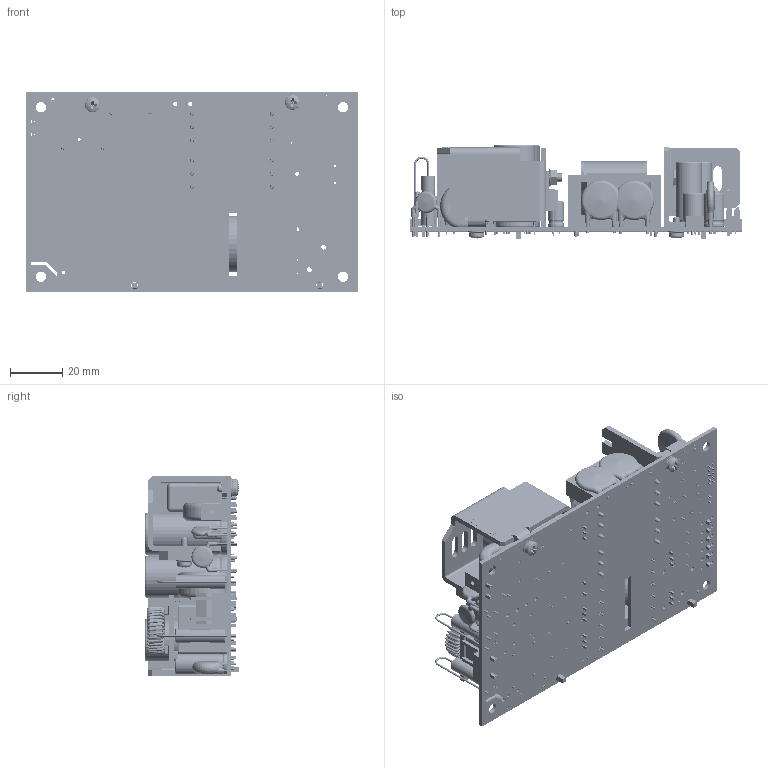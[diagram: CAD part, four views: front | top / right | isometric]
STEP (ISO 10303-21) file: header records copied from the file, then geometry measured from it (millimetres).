
FILE_DESCRIPTION (( 'STEP AP214' ), '1' );
FILE_NAME ('GCS350 24V-56V.STEP', '2018-11-13T18:51:45', ( '' ), ( '' ), 'SwSTEP 2.0', 'SolidWorks 2018', '' );
FILE_SCHEMA (( 'AUTOMOTIVE_DESIGN' ));
Length unit declared in the file: inch
Products named in the file (38): Capacitor Elec_10mm D_25mm; 10017249 (inductor L1); GCS350 24V-56V; TO220_3P_01; L1 winding; Capacitor Elec_08mm D_13mm H; 10017648 (Base Inductor 17x27mm); Capacitor Disc_0.500 D_0.400" C; Conn_MLX_KK156_Hdr_06P; Bridge Rectifier_GBU6K_Lead trimed; Screw_Sq Cone_no 4_01_.375"; CAP FILM_17x11x21MM_15LS; Capacitor Elec_16mm Dx31.5mm H_30mm; Pot_Top adj_Type1_01; Capacitor Film_12x5mm_10 LS; Capacitor Film_18x11mm_15 LS_19mm H; MOV-S10K140E2; CAP FILM_17x5x11MM_15LS; Capacitor Elec_08mm D_20mm H; FUSE-0; Capacitor Elec_06mm D_10mm H; Inductor Toroid_18.0mm OD_7mm Width; Screw_Flat Head Phillips (Metric)_(1314)_M3 x 8; Inductor Toroid_20.0mm OD_10mm Width; Capacitor Disc_0.300 D X .40 LS; Nut_Keps_4-40_Star_01; Faston .25 X .032; Screw_Sq Cone_no 4_01_.250"; Xfmr_GCS150; TO220_2P_01; L4; Conn_JST_S10B-PHDSS-B_Vertical; 1001720901; CON MLX  .156 3P; 1001720802; Choke Output Rod; 1001720602; Conn_MLX_KK100_Hdr_02P
Assembly tree (65 placements, depth 3):
  GCS350 24V-56V
    1001720602
    1001720802
    1001720901
    L4
    Xfmr_GCS150
    Faston .25 X .032
    Capacitor Disc_0.300 D X .40 LS  x3
    Inductor Toroid_20.0mm OD_10mm Width
    Inductor Toroid_18.0mm OD_7mm Width
    FUSE-0  x2
    CAP FILM_17x5x11MM_15LS
    Capacitor Film_18x11mm_15 LS_19mm H  x2
    Pot_Top adj_Type1_01
    CAP FILM_17x11x21MM_15LS
    Bridge Rectifier_GBU6K_Lead trimed
    Capacitor Disc_0.500 D_0.400" C  x4
    Capacitor Elec_08mm D_13mm H  x2
    TO220_3P_01  x5
    Capacitor Elec_10mm D_25mm  x4
    Conn_MLX_KK100_Hdr_02P
    Choke Output Rod
    CON MLX  .156 3P
    Conn_JST_S10B-PHDSS-B_Vertical
    TO220_2P_01
    Screw_Sq Cone_no 4_01_.250"  x2
    Nut_Keps_4-40_Star_01  x6
    Screw_Flat Head Phillips (Metric)_(1314)_M3 x 8  x6
    Capacitor Elec_06mm D_10mm H
    Capacitor Elec_08mm D_20mm H
    MOV-S10K140E2
    Capacitor Film_12x5mm_10 LS
    Capacitor Elec_16mm Dx31.5mm H_30mm  x3
    Screw_Sq Cone_no 4_01_.375"
    Conn_MLX_KK156_Hdr_06P
    10017249 (inductor L1)
      10017648 (Base Inductor 17x27mm)
      L1 winding
Bounding box: 127 x 35.95 x 76.21 mm (x, y, z)
Volume: 123781.6 mm3; surface area: 88843.6 mm2
Topology: 88 solids, 105 shells, 4143 faces, 9942 edges, 6146 vertices
Faces by surface type: plane 1812, cylinder 1070, bspline 739, cone 262, torus 222, sphere 38
Entity records: 134475 total; most frequent: CARTESIAN_POINT 53947, ORIENTED_EDGE 13674, DIRECTION 13440, EDGE_CURVE 6837, AXIS2_PLACEMENT_3D 4987, VERTEX_POINT 4203, EDGE_LOOP 3488, LINE 3466
